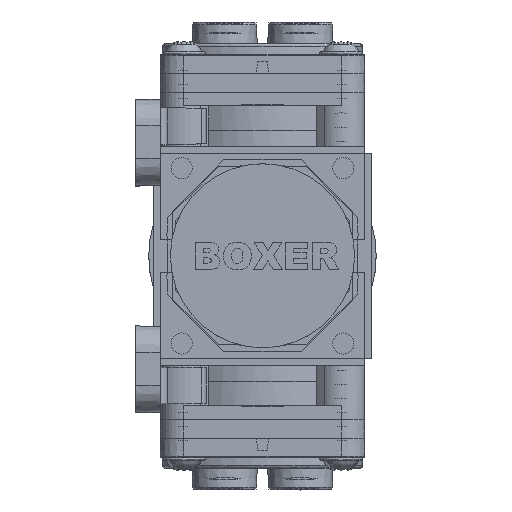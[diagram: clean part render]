
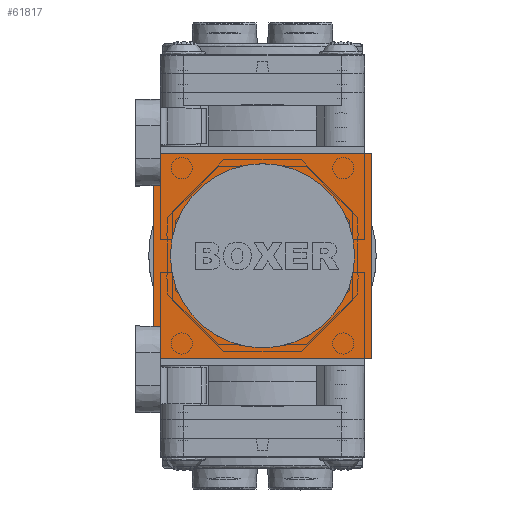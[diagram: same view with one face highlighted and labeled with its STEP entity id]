
A CAD part, top view. The second image highlights one B-rep face of the part: STEP entity #61817.
In plain terms, the highlighted planar face has unit normal (0, 0, 1).
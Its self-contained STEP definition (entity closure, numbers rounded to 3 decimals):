
#1662 = EDGE_CURVE ( 'NONE', #58311, #41039, #3255, .T. ) ;
#3255 = LINE ( 'NONE', #27998, #8377 ) ;
#4416 = CARTESIAN_POINT ( 'NONE',  ( -20.2, 18.9, 21.63 ) ) ;
#5428 = CARTESIAN_POINT ( 'NONE',  ( -20.2, 18.9, 21.63 ) ) ;
#5778 = CIRCLE ( 'NONE', #41201, 17. ) ;
#6549 = CARTESIAN_POINT ( 'NONE',  ( 20.2, 18.9, 21.63 ) ) ;
#6766 = CARTESIAN_POINT ( 'NONE',  ( 20.2, -18.9, 21.63 ) ) ;
#8377 = VECTOR ( 'NONE', #21947, 1000. ) ;
#10220 = LINE ( 'NONE', #5428, #56597 ) ;
#10572 = CARTESIAN_POINT ( 'NONE',  ( -20.2, 18.9, 21.63 ) ) ;
#11187 = CARTESIAN_POINT ( 'NONE',  ( -20.2, 18.9, 21.63 ) ) ;
#11587 = ORIENTED_EDGE ( 'NONE', *, *, #32920, .T. ) ;
#11626 = DIRECTION ( 'NONE',  ( 0., 1., 0. ) ) ;
#17535 = DIRECTION ( 'NONE',  ( 0., 1., 0. ) ) ;
#20381 = DIRECTION ( 'NONE',  ( 0., -1., 0. ) ) ;
#21755 = ORIENTED_EDGE ( 'NONE', *, *, #52808, .F. ) ;
#21947 = DIRECTION ( 'NONE',  ( 1., 0., 0. ) ) ;
#23022 = ORIENTED_EDGE ( 'NONE', *, *, #53536, .T. ) ;
#27998 = CARTESIAN_POINT ( 'NONE',  ( -20.2, -18.9, 21.63 ) ) ;
#31237 = VECTOR ( 'NONE', #57677, 1000. ) ;
#32920 = EDGE_CURVE ( 'NONE', #36682, #39827, #42753, .T. ) ;
#33620 = DIRECTION ( 'NONE',  ( 0., -1., 0. ) ) ;
#33833 = ORIENTED_EDGE ( 'NONE', *, *, #54895, .T. ) ;
#34610 = DIRECTION ( 'NONE',  ( 0., 0., 1. ) ) ;
#35049 = AXIS2_PLACEMENT_3D ( 'NONE', #11187, #34610, #20381 ) ;
#36682 = VERTEX_POINT ( 'NONE', #58206 ) ;
#36909 = VERTEX_POINT ( 'NONE', #56305 ) ;
#39827 = VERTEX_POINT ( 'NONE', #10572 ) ;
#41039 = VERTEX_POINT ( 'NONE', #6766 ) ;
#41201 = AXIS2_PLACEMENT_3D ( 'NONE', #46336, #60989, #17535 ) ;
#42753 = LINE ( 'NONE', #4416, #31237 ) ;
#43041 = EDGE_LOOP ( 'NONE', ( #23022, #11587, #33833, #44481 ) ) ;
#44481 = ORIENTED_EDGE ( 'NONE', *, *, #1662, .T. ) ;
#44758 = EDGE_LOOP ( 'NONE', ( #21755 ) ) ;
#45061 = FACE_OUTER_BOUND ( 'NONE', #43041, .T. ) ;
#46336 = CARTESIAN_POINT ( 'NONE',  ( 0., 0., 21.63 ) ) ;
#48383 = VECTOR ( 'NONE', #11626, 1000. ) ;
#49611 = LINE ( 'NONE', #6549, #48383 ) ;
#50219 = CARTESIAN_POINT ( 'NONE',  ( -20.2, -18.9, 21.63 ) ) ;
#52808 = EDGE_CURVE ( 'NONE', #36909, #36909, #5778, .T. ) ;
#53536 = EDGE_CURVE ( 'NONE', #41039, #36682, #49611, .T. ) ;
#53663 = PLANE ( 'NONE',  #35049 ) ;
#54895 = EDGE_CURVE ( 'NONE', #39827, #58311, #10220, .T. ) ;
#56305 = CARTESIAN_POINT ( 'NONE',  ( 0., 17., 21.63 ) ) ;
#56597 = VECTOR ( 'NONE', #33620, 1000. ) ;
#57677 = DIRECTION ( 'NONE',  ( -1., 0., 0. ) ) ;
#58206 = CARTESIAN_POINT ( 'NONE',  ( 20.2, 18.9, 21.63 ) ) ;
#58311 = VERTEX_POINT ( 'NONE', #50219 ) ;
#58446 = FACE_BOUND ( 'NONE', #44758, .T. ) ;
#60989 = DIRECTION ( 'NONE',  ( 0., 0., 1. ) ) ;
#61817 = ADVANCED_FACE ( 'NONE', ( #58446, #45061 ), #53663, .T. ) ;
